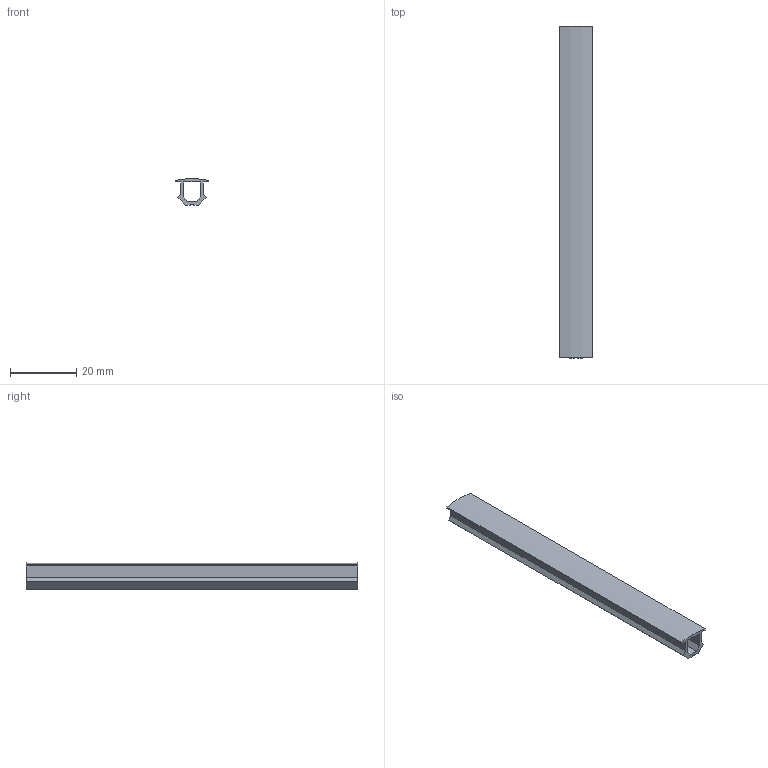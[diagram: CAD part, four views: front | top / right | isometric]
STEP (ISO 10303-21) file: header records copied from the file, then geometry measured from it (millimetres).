
FILE_DESCRIPTION(/* description */ ('Unknown'),/* implementation_level */ '2;1');
FILE_NAME(/* name */ 'GWR06',/* time_stamp */ '2026-09-29T14:33:12+08:00',/* author */ ('Unknown'),/* organization */ ('Unknown'),/* preprocessor_version */ 'ST-DEVELOPER v16.7',/* originating_system */ 'DEX',/* authorisation */ $);
FILE_SCHEMA (('AUTOMOTIVE_DESIGN {1 0 10303 214 3 1 1}'));
Length unit declared in the file: millimetre
Products named in the file (1): GWR06
Bounding box: 10 x 100 x 7.94 mm (x, y, z)
Volume: 2602.7 mm3; surface area: 5669.4 mm2
Topology: 1 solids, 1 shells, 24 faces, 66 edges, 44 vertices
Faces by surface type: plane 23, cylinder 1
Entity records: 786 total; most frequent: CARTESIAN_POINT 135, ORIENTED_EDGE 132, DIRECTION 118, EDGE_CURVE 66, LINE 64, VECTOR 64, VERTEX_POINT 44, AXIS2_PLACEMENT_3D 27
